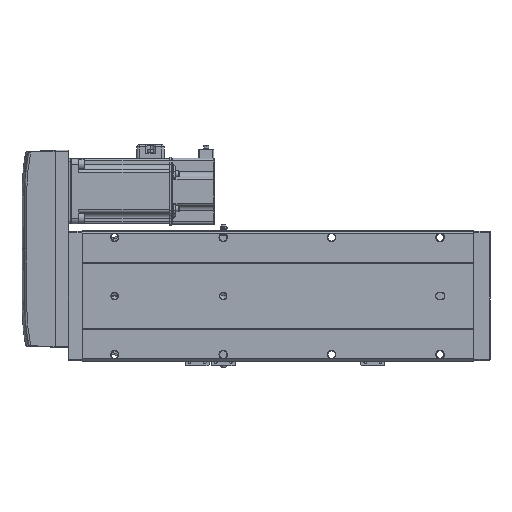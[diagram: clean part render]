
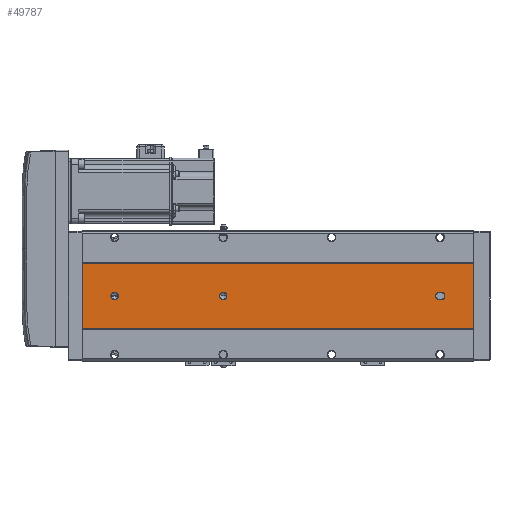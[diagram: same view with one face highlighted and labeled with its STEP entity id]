
A CAD part, front view. The second image highlights one B-rep face of the part: STEP entity #49787.
In plain terms, the highlighted planar face has unit normal (0, -1, 0).
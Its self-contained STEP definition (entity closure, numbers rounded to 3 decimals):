
#243 = CARTESIAN_POINT ( 'NONE',  ( -9.892, -52.848, 361. ) ) ;
#2583 = FACE_BOUND ( 'NONE', #12655, .T. ) ;
#2906 = DIRECTION ( 'NONE',  ( 0., 0., 1. ) ) ;
#3528 = CARTESIAN_POINT ( 'NONE',  ( -39.892, -52.848, 231. ) ) ;
#3565 = DIRECTION ( 'NONE',  ( 0., 1., 0. ) ) ;
#4208 = DIRECTION ( 'NONE',  ( 0., 0., 1. ) ) ;
#6188 = DIRECTION ( 'NONE',  ( 0., 0., 1. ) ) ;
#6821 = CARTESIAN_POINT ( 'NONE',  ( -39.892, -52.848, 30. ) ) ;
#7097 = ORIENTED_EDGE ( 'NONE', *, *, #58137, .T. ) ;
#7110 = VERTEX_POINT ( 'NONE', #51476 ) ;
#7219 = DIRECTION ( 'NONE',  ( 0., 0., -1. ) ) ;
#7240 = CARTESIAN_POINT ( 'NONE',  ( -39.892, -52.848, 334.5 ) ) ;
#7449 = CARTESIAN_POINT ( 'NONE',  ( -39.892, -52.848, 26.5 ) ) ;
#8363 = AXIS2_PLACEMENT_3D ( 'NONE', #62210, #86622, #40438 ) ;
#9838 = DIRECTION ( 'NONE',  ( 1., 0., 0. ) ) ;
#10114 = PLANE ( 'NONE',  #71505 ) ;
#10808 = CARTESIAN_POINT ( 'NONE',  ( -69.892, -52.848, 0. ) ) ;
#12014 = VERTEX_POINT ( 'NONE', #7240 ) ;
#12655 = EDGE_LOOP ( 'NONE', ( #62051, #36809 ) ) ;
#13703 = DIRECTION ( 'NONE',  ( 0., 1., 0. ) ) ;
#16169 = ORIENTED_EDGE ( 'NONE', *, *, #41726, .T. ) ;
#17208 = ORIENTED_EDGE ( 'NONE', *, *, #19825, .T. ) ;
#17606 = EDGE_CURVE ( 'NONE', #85599, #97738, #92002, .T. ) ;
#17787 = VERTEX_POINT ( 'NONE', #55952 ) ;
#19825 = EDGE_CURVE ( 'NONE', #81925, #23066, #99873, .T. ) ;
#19883 = DIRECTION ( 'NONE',  ( 1., 0., 0. ) ) ;
#22602 = LINE ( 'NONE', #243, #72334 ) ;
#23066 = VERTEX_POINT ( 'NONE', #10808 ) ;
#23389 = FACE_OUTER_BOUND ( 'NONE', #27420, .T. ) ;
#23538 = VERTEX_POINT ( 'NONE', #26049 ) ;
#23628 = CARTESIAN_POINT ( 'NONE',  ( -36.392, -52.848, 361. ) ) ;
#25575 = VERTEX_POINT ( 'NONE', #55862 ) ;
#25842 = EDGE_CURVE ( 'NONE', #12014, #7110, #55338, .T. ) ;
#26049 = CARTESIAN_POINT ( 'NONE',  ( -9.892, -52.848, 0. ) ) ;
#26816 = EDGE_CURVE ( 'NONE', #35625, #25575, #96395, .T. ) ;
#27119 = DIRECTION ( 'NONE',  ( 0., 1., 0. ) ) ;
#27420 = EDGE_LOOP ( 'NONE', ( #35434, #48494, #68441, #17208 ) ) ;
#28049 = CARTESIAN_POINT ( 'NONE',  ( -69.892, -52.848, 361. ) ) ;
#29124 = VECTOR ( 'NONE', #91084, 1000. ) ;
#30013 = CIRCLE ( 'NONE', #78515, 3.5 ) ;
#32382 = ORIENTED_EDGE ( 'NONE', *, *, #77672, .T. ) ;
#33562 = EDGE_CURVE ( 'NONE', #17787, #85599, #64473, .T. ) ;
#34027 = EDGE_CURVE ( 'NONE', #90981, #17787, #91076, .T. ) ;
#35083 = VECTOR ( 'NONE', #9838, 1000. ) ;
#35434 = ORIENTED_EDGE ( 'NONE', *, *, #56652, .T. ) ;
#35625 = VERTEX_POINT ( 'NONE', #54834 ) ;
#35861 = DIRECTION ( 'NONE',  ( 0., 0., -1. ) ) ;
#36809 = ORIENTED_EDGE ( 'NONE', *, *, #66425, .T. ) ;
#37524 = DIRECTION ( 'NONE',  ( 0., 0., 1. ) ) ;
#38929 = DIRECTION ( 'NONE',  ( 0., 0., 1. ) ) ;
#40438 = DIRECTION ( 'NONE',  ( 0., 0., 1. ) ) ;
#41479 = CARTESIAN_POINT ( 'NONE',  ( -69.892, -52.848, 0. ) ) ;
#41726 = EDGE_CURVE ( 'NONE', #7110, #12014, #56112, .T. ) ;
#41981 = CARTESIAN_POINT ( 'NONE',  ( -69.892, -52.848, 361. ) ) ;
#43529 = CARTESIAN_POINT ( 'NONE',  ( -9.892, -52.848, 361. ) ) ;
#44176 = AXIS2_PLACEMENT_3D ( 'NONE', #3528, #67475, #38929 ) ;
#45083 = CARTESIAN_POINT ( 'NONE',  ( -69.892, -52.848, 361. ) ) ;
#45417 = DIRECTION ( 'NONE',  ( 0., 1., 0. ) ) ;
#45591 = VECTOR ( 'NONE', #19883, 1000. ) ;
#48494 = ORIENTED_EDGE ( 'NONE', *, *, #80072, .F. ) ;
#48842 = AXIS2_PLACEMENT_3D ( 'NONE', #91861, #45417, #6188 ) ;
#49611 = CARTESIAN_POINT ( 'NONE',  ( -69.892, -52.848, 361. ) ) ;
#49787 = ADVANCED_FACE ( 'NONE', ( #71962, #2583, #69561, #23389 ), #10114, .F. ) ;
#51476 = CARTESIAN_POINT ( 'NONE',  ( -39.892, -52.848, 327.5 ) ) ;
#51958 = DIRECTION ( 'NONE',  ( 0., 0., 1. ) ) ;
#54787 = DIRECTION ( 'NONE',  ( 0., 0., -1. ) ) ;
#54834 = CARTESIAN_POINT ( 'NONE',  ( -39.892, -52.848, 227.5 ) ) ;
#55338 = CIRCLE ( 'NONE', #87696, 3.5 ) ;
#55862 = CARTESIAN_POINT ( 'NONE',  ( -39.892, -52.848, 234.5 ) ) ;
#55952 = CARTESIAN_POINT ( 'NONE',  ( -43.392, -52.848, 32. ) ) ;
#56112 = CIRCLE ( 'NONE', #48842, 3.5 ) ;
#56652 = EDGE_CURVE ( 'NONE', #23066, #23538, #96991, .T. ) ;
#58089 = VECTOR ( 'NONE', #7219, 1000. ) ;
#58137 = EDGE_CURVE ( 'NONE', #97738, #71388, #30013, .T. ) ;
#62051 = ORIENTED_EDGE ( 'NONE', *, *, #26816, .T. ) ;
#62210 = CARTESIAN_POINT ( 'NONE',  ( -39.892, -52.848, 32. ) ) ;
#63664 = EDGE_LOOP ( 'NONE', ( #16169, #79046 ) ) ;
#63854 = CARTESIAN_POINT ( 'NONE',  ( -36.392, -52.848, 32. ) ) ;
#64473 = CIRCLE ( 'NONE', #8363, 3.5 ) ;
#64686 = VERTEX_POINT ( 'NONE', #43529 ) ;
#65451 = AXIS2_PLACEMENT_3D ( 'NONE', #82776, #98361, #51958 ) ;
#66361 = AXIS2_PLACEMENT_3D ( 'NONE', #87918, #3565, #2906 ) ;
#66425 = EDGE_CURVE ( 'NONE', #25575, #35625, #97822, .T. ) ;
#67475 = DIRECTION ( 'NONE',  ( 0., 1., 0. ) ) ;
#67732 = ORIENTED_EDGE ( 'NONE', *, *, #17606, .T. ) ;
#68337 = CARTESIAN_POINT ( 'NONE',  ( -43.392, -52.848, 361. ) ) ;
#68441 = ORIENTED_EDGE ( 'NONE', *, *, #91683, .F. ) ;
#69561 = FACE_BOUND ( 'NONE', #63664, .T. ) ;
#71388 = VERTEX_POINT ( 'NONE', #7449 ) ;
#71505 = AXIS2_PLACEMENT_3D ( 'NONE', #49611, #80436, #87277 ) ;
#71962 = FACE_BOUND ( 'NONE', #97171, .T. ) ;
#72334 = VECTOR ( 'NONE', #54787, 1000. ) ;
#72905 = CARTESIAN_POINT ( 'NONE',  ( -39.892, -52.848, 331. ) ) ;
#74805 = ORIENTED_EDGE ( 'NONE', *, *, #34027, .T. ) ;
#77672 = EDGE_CURVE ( 'NONE', #71388, #90981, #90856, .T. ) ;
#78515 = AXIS2_PLACEMENT_3D ( 'NONE', #6821, #13703, #37524 ) ;
#79046 = ORIENTED_EDGE ( 'NONE', *, *, #25842, .T. ) ;
#80072 = EDGE_CURVE ( 'NONE', #64686, #23538, #22602, .T. ) ;
#80436 = DIRECTION ( 'NONE',  ( 0., 1., 0. ) ) ;
#81663 = VECTOR ( 'NONE', #35861, 1000. ) ;
#81925 = VERTEX_POINT ( 'NONE', #45083 ) ;
#82776 = CARTESIAN_POINT ( 'NONE',  ( -39.892, -52.848, 231. ) ) ;
#85599 = VERTEX_POINT ( 'NONE', #63854 ) ;
#86622 = DIRECTION ( 'NONE',  ( 0., 1., 0. ) ) ;
#87277 = DIRECTION ( 'NONE',  ( 0., 0., 1. ) ) ;
#87696 = AXIS2_PLACEMENT_3D ( 'NONE', #72905, #27119, #4208 ) ;
#87794 = ORIENTED_EDGE ( 'NONE', *, *, #33562, .T. ) ;
#87918 = CARTESIAN_POINT ( 'NONE',  ( -39.892, -52.848, 30. ) ) ;
#89262 = CARTESIAN_POINT ( 'NONE',  ( -43.392, -52.848, 30. ) ) ;
#90856 = CIRCLE ( 'NONE', #66361, 3.5 ) ;
#90981 = VERTEX_POINT ( 'NONE', #89262 ) ;
#91076 = LINE ( 'NONE', #68337, #29124 ) ;
#91084 = DIRECTION ( 'NONE',  ( 0., 0., 1. ) ) ;
#91683 = EDGE_CURVE ( 'NONE', #81925, #64686, #91691, .T. ) ;
#91691 = LINE ( 'NONE', #41981, #45591 ) ;
#91861 = CARTESIAN_POINT ( 'NONE',  ( -39.892, -52.848, 331. ) ) ;
#92002 = LINE ( 'NONE', #23628, #58089 ) ;
#96395 = CIRCLE ( 'NONE', #44176, 3.5 ) ;
#96991 = LINE ( 'NONE', #41479, #35083 ) ;
#97171 = EDGE_LOOP ( 'NONE', ( #74805, #87794, #67732, #7097, #32382 ) ) ;
#97738 = VERTEX_POINT ( 'NONE', #100552 ) ;
#97822 = CIRCLE ( 'NONE', #65451, 3.5 ) ;
#98361 = DIRECTION ( 'NONE',  ( 0., 1., 0. ) ) ;
#99873 = LINE ( 'NONE', #28049, #81663 ) ;
#100552 = CARTESIAN_POINT ( 'NONE',  ( -36.392, -52.848, 30. ) ) ;
